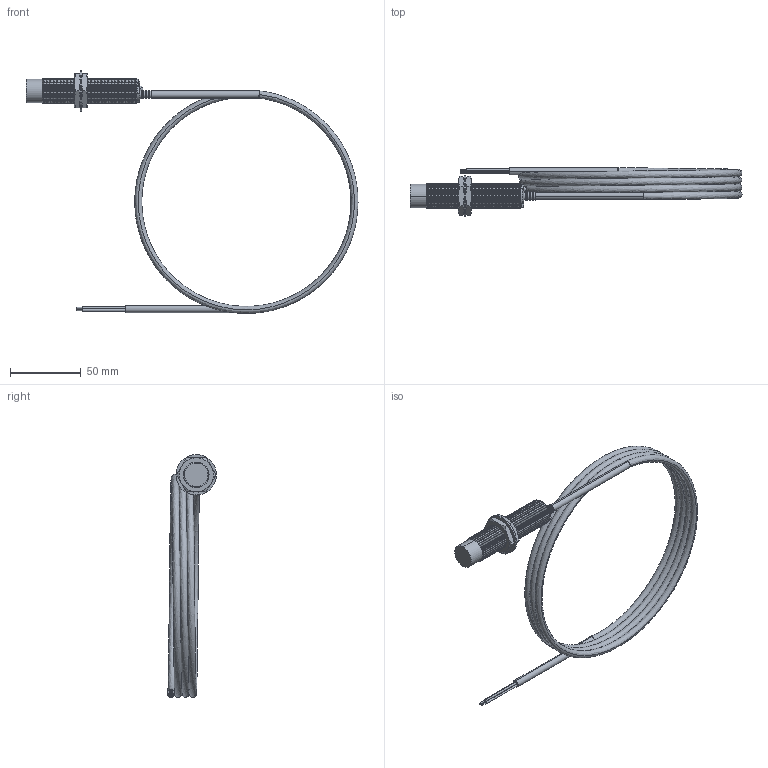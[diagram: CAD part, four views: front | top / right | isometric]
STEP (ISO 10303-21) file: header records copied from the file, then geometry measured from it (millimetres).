
FILE_DESCRIPTION (( 'STEP AP203' ), '1' );
FILE_NAME ('90-29417-061.STEP', '2015-11-15T05:27:55', ( 'Sam' ), ( 'Spade' ), 'SwSTEP 2.0', 'SolidWorks 2002296', '' );
FILE_SCHEMA (( 'CONFIG_CONTROL_DESIGN' ));
Length unit declared in the file: inch
Products named in the file (18): 90-29417-061; Imported68; Imported67; Imported66; Imported65; Imported64; Imported63; Imported62; Imported61; Imported60; Imported59; Imported58; Imported57; Imported73; Imported72; Imported71; Imported70; Imported69
Assembly tree (17 placements, depth 2):
  90-29417-061
    Imported62
    Imported69
    Imported67
    Imported72
    Imported63
    Imported61
    Imported58
    Imported71
    Imported65
    Imported66
    Imported64
    Imported57
    Imported70
    Imported60
    Imported59
    Imported68
    Imported73
Bounding box: 234.15 x 34.58 x 171.27 mm (x, y, z)
Volume: 58103.7 mm3; surface area: 41226 mm2
Topology: 17 solids, 17 shells, 643 faces, 1329 edges, 726 vertices
Faces by surface type: cone 324, cylinder 214, plane 98, bspline 7
Entity records: 19661 total; most frequent: CARTESIAN_POINT 3949, DIRECTION 3192, ORIENTED_EDGE 2650, EDGE_CURVE 1325, AXIS2_PLACEMENT_3D 1269, VERTEX_POINT 726, EDGE_LOOP 661, LINE 654
